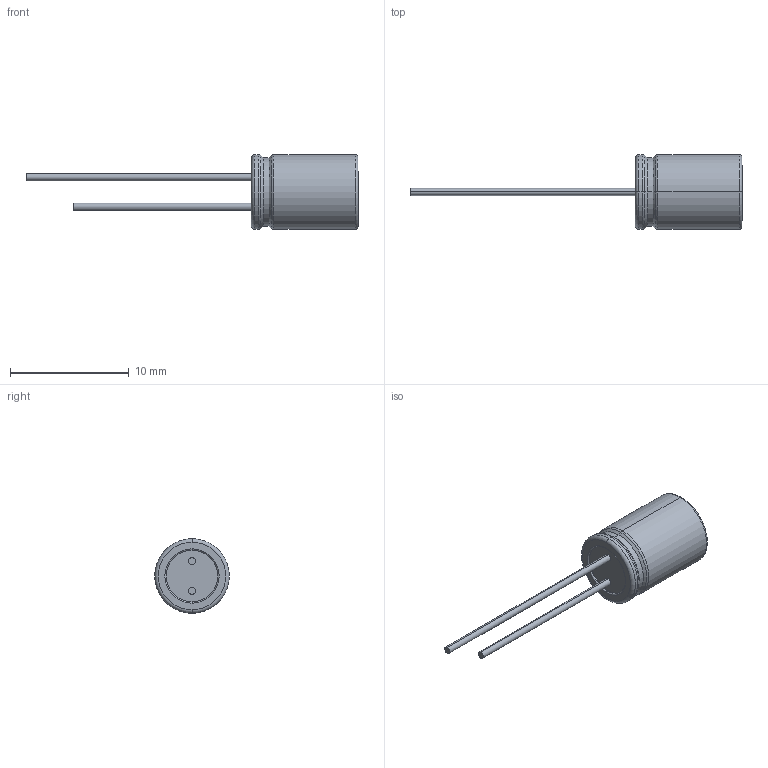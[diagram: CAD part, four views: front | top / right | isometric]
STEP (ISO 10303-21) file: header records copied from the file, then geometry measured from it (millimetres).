
FILE_DESCRIPTION((''),'2;1');
FILE_NAME('HYBRID_RADIAL63X9','2020-05-20T',('xy'),(''),'PRO/ENGINEER BY PARAMETRIC TECHNOLOGY CORPORATION, 2009380','PRO/ENGINEER BY PARAMETRIC TECHNOLOGY CORPORATION, 2009380','');
FILE_SCHEMA(('CONFIG_CONTROL_DESIGN'));
Length unit declared in the file: millimetre
Products named in the file (1): HYBRID_RADIAL63X9
Bounding box: 28 x 6.3 x 6.3 mm (x, y, z)
Volume: 282.8 mm3; surface area: 305.5 mm2
Topology: 1 solids, 1 shells, 415 faces, 1146 edges, 758 vertices
Faces by surface type: plane 387, cylinder 13, torus 11, cone 4
Entity records: 13005 total; most frequent: CARTESIAN_POINT 2328, ORIENTED_EDGE 2292, DIRECTION 2020, EDGE_CURVE 1146, VECTOR 1098, LINE 1098, VERTEX_POINT 758, AXIS2_PLACEMENT_3D 461
